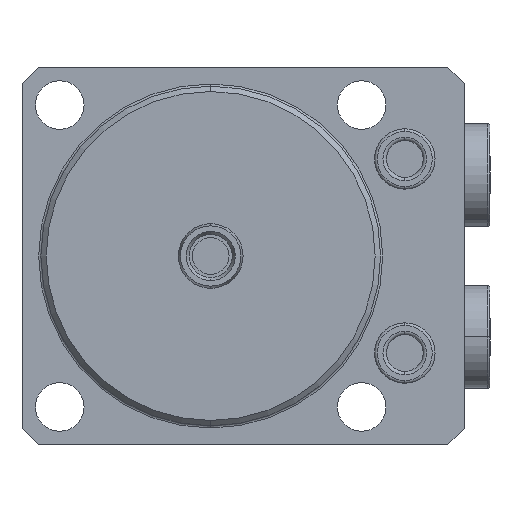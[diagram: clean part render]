
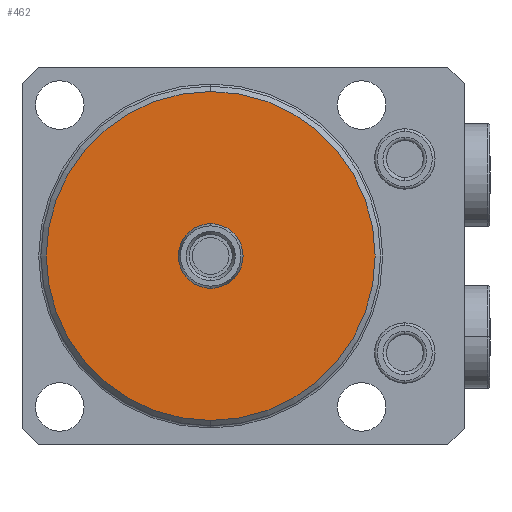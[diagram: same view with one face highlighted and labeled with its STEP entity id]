
A CAD part, front view. The second image highlights one B-rep face of the part: STEP entity #462.
In plain terms, the highlighted planar face has unit normal (0, -1, 0) as drawn and (0, 1, 0) by its records, which use the part's own axes.
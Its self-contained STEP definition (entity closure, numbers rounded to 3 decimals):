
#200=PLANE('',#4812);
#310=FACE_BOUND('',#1108,.F.);
#311=FACE_BOUND('',#1109,.F.);
#462=ADVANCED_FACE('',(#310,#311),#200,.T.);
#1108=EDGE_LOOP('',(#1969,#1970));
#1109=EDGE_LOOP('',(#1971,#1972));
#1390=CIRCLE('',#4694,6.);
#1445=CIRCLE('',#4772,30.5);
#1466=CIRCLE('',#4810,6.);
#1467=CIRCLE('',#4811,30.5);
#1969=ORIENTED_EDGE('',*,*,#3621,.T.);
#1970=ORIENTED_EDGE('',*,*,#3436,.T.);
#1971=ORIENTED_EDGE('',*,*,#3622,.T.);
#1972=ORIENTED_EDGE('',*,*,#3524,.T.);
#3008=VERTEX_POINT('',#6813);
#3009=VERTEX_POINT('',#6814);
#3080=VERTEX_POINT('',#7001);
#3081=VERTEX_POINT('',#7002);
#3436=EDGE_CURVE('',#3008,#3009,#1390,.T.);
#3524=EDGE_CURVE('',#3080,#3081,#1445,.T.);
#3621=EDGE_CURVE('',#3009,#3008,#1466,.T.);
#3622=EDGE_CURVE('',#3081,#3080,#1467,.T.);
#4694=AXIS2_PLACEMENT_3D('',#6812,#5338,#5339);
#4772=AXIS2_PLACEMENT_3D('',#7000,#5526,#5527);
#4810=AXIS2_PLACEMENT_3D('',#7276,#5653,#5654);
#4811=AXIS2_PLACEMENT_3D('',#7277,#5655,#5656);
#4812=AXIS2_PLACEMENT_3D('',#7278,#5657,#5658);
#5338=DIRECTION('',(0.,1.,0.));
#5339=DIRECTION('',(0.,0.,1.));
#5526=DIRECTION('',(0.,-1.,0.));
#5527=DIRECTION('',(0.,0.,1.));
#5653=DIRECTION('',(0.,1.,0.));
#5654=DIRECTION('',(0.,0.,1.));
#5655=DIRECTION('',(0.,-1.,0.));
#5656=DIRECTION('',(0.,0.,1.));
#5657=DIRECTION('',(0.,1.,0.));
#5658=DIRECTION('',(0.,0.,1.));
#6812=CARTESIAN_POINT('',(0.,-47.,0.));
#6813=CARTESIAN_POINT('',(0.,-47.,-6.));
#6814=CARTESIAN_POINT('',(0.,-47.,6.));
#7000=CARTESIAN_POINT('',(0.,-47.,0.));
#7001=CARTESIAN_POINT('',(0.,-47.,-30.5));
#7002=CARTESIAN_POINT('',(0.,-47.,30.5));
#7276=CARTESIAN_POINT('',(0.,-47.,0.));
#7277=CARTESIAN_POINT('',(0.,-47.,0.));
#7278=CARTESIAN_POINT('',(0.,-47.,0.));
